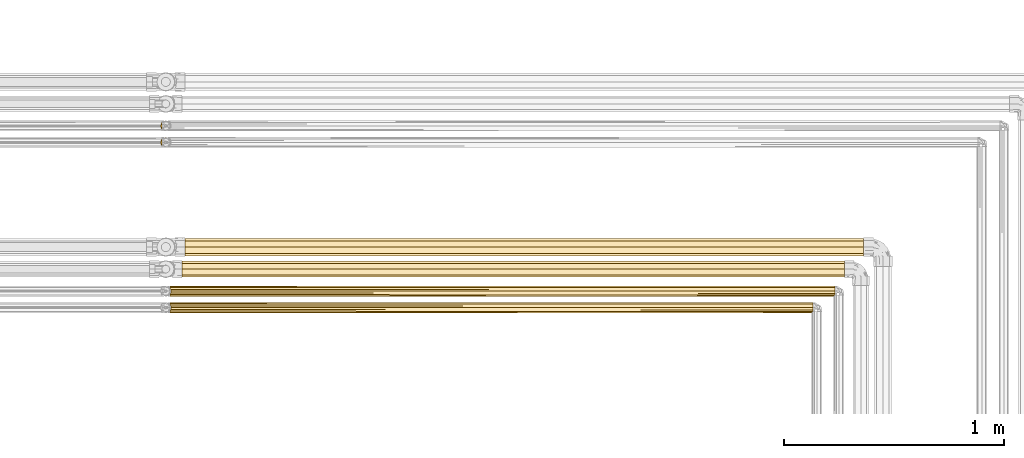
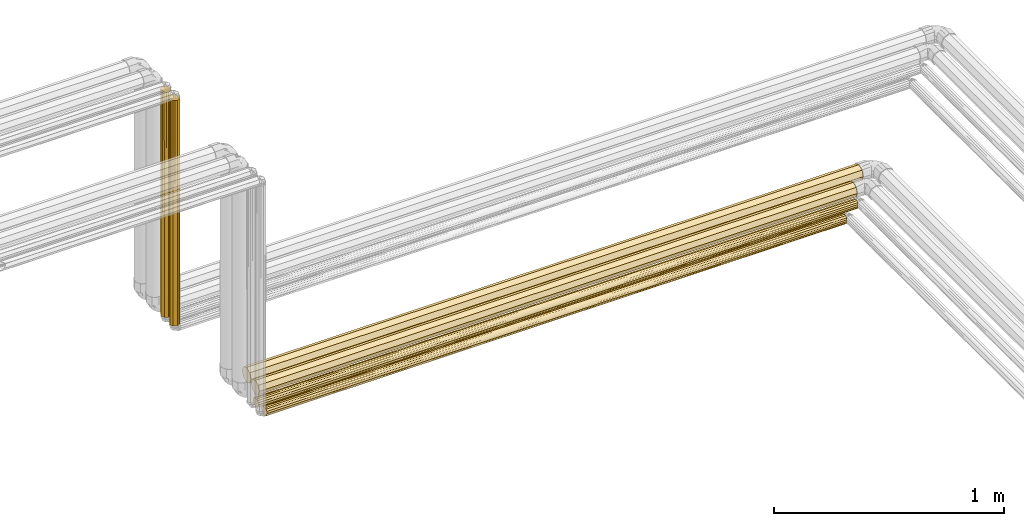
# One storey, part 107 of 652: 6 coverings.
"""IFC2X3 building model written with IfcOpenShell, lengths in millimetres."""

from ifc_helpers import new_model, entity, si_unit, converted_unit, direction, frame, origin, place, context, subcontext, project, spatial, faceted_brep, material, type_object, element, save


model = new_model("IFC2X3")

# Units and contexts
model_context = context("Model", 3, precision=0.01, world=frame((0.0, 0.0, 308426.39999999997)), true_north=direction((6.123233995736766e-17, 1.0)))
plan_context = context("Plan", 3, precision=0.01, world=frame((0.0, 0.0, 308426.39999999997)), true_north=direction((6.123233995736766e-17, 1.0)))
body_context = subcontext(model_context, "Body", "Model", "MODEL_VIEW")
ifc_project = project(units=[si_unit("LENGTHUNIT", "METRE", prefix="MILLI"), si_unit("AREAUNIT", "SQUARE_METRE"), si_unit("VOLUMEUNIT", "CUBIC_METRE"), converted_unit("PLANEANGLEUNIT", "DEGREE", entity("IfcPlaneAngleMeasure", 0.017453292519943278), si_unit("PLANEANGLEUNIT", "RADIAN"), dimensions=[0, 0, 0, 0, 0, 0, 0])], contexts=[model_context, plan_context])

# Site, building, storey
site_placement = place(None, origin())
site = spatial("IfcSite", under=ifc_project, at=site_placement, Name="Default", CompositionType="ELEMENT")
building_placement = place(site_placement, origin())
building = spatial("IfcBuilding", under=site, at=building_placement, CompositionType="ELEMENT")
storey_placement = place(building_placement, frame((0.0, 0.0, 1730.6999999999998)))
storey = spatial("IfcBuildingStorey", under=building, at=storey_placement, Name="EG_Produktion_FFB", CompositionType="ELEMENT", Elevation=1730.6999999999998)

# Coverings
ifc_material = material(Name="Dämmung - Armaflex-Schlauch")
covering_type = type_object("IfcCoveringType", Name="Rohrdämmung außen:Armaflex-Schlauch", PredefinedType="INSULATION")
covering_1_placement = place(storey_placement, frame((69574.08425000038, 40736.94222776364, 2526.895152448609)))
element("IfcCovering", 1, at=covering_1_placement, inside=storey, type_object=covering_type, material=ifc_material, Name="Rohrdämmung außen:Armaflex-Schlauch", ObjectType="Rohrdämmung außen:Armaflex-Schlauch", PredefinedType="INSULATION", context=body_context, shape_type="Brep", body=[
    faceted_brep([(3006.8315000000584, 74.52027223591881, 38.057772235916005), (3006.8315000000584, 71.8576176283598, 44.48598910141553), (3006.8315000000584, 69.18046274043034, 50.949212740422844), (3006.8315000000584, 66.51055799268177, 57.39493299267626), (3006.8315000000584, 63.8406532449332, 63.84065324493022), (3006.831500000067, 57.394932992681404, 66.51055799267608), (3006.8315000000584, 50.94921274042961, 69.18046274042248), (3006.831500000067, 44.50349248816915, 71.85036748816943), (3006.8315000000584, 38.057772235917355, 74.52027223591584), (3006.8315000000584, 31.629555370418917, 71.85761762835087), (3006.8315000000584, 25.166331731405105, 69.18046274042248), (3006.83150000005, 18.72061147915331, 66.51055799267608), (3006.8315000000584, 12.274891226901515, 63.84065324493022), (3006.8315000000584, 9.604986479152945, 57.39493299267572), (3006.8315000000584, 6.935081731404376, 50.949212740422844), (3006.8315000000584, 4.265176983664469, 44.50349248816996), (3006.8315000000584, 1.5952722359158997, 38.057772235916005), (3006.8315000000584, 4.265176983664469, 31.612051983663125), (3006.8315000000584, 6.935081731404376, 25.166331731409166), (3006.8315000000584, 9.604986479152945, 18.720611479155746), (3006.8315000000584, 12.274891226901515, 12.274891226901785), (3006.8315000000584, 18.72061147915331, 9.604986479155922), (3006.8315000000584, 25.166331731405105, 6.935081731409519), (3006.83150000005, 31.612051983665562, 4.265176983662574), (3006.8315000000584, 38.057772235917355, 1.5952722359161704), (3006.8315000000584, 44.4859891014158, 4.257926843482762), (3006.8315000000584, 50.94921274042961, 6.935081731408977), (3006.8315000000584, 57.394932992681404, 9.604986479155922), (3006.8315000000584, 63.8406532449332, 12.274891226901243), (3006.83150000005, 66.51055799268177, 18.720611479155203), (3006.8315000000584, 69.18046274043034, 25.166331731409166), (3006.83150000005, 71.85036748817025, 31.612051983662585), (0.0, 57.394932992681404, 9.60498647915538), (0.0, 50.94921274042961, 6.935081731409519), (0.0, 44.50349248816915, 4.265176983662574), (0.0, 38.057772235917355, 1.5952722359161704), (0.0, 31.62955536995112, 4.257926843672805), (0.0, 25.201338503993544, 6.920581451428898), (0.0, 18.73811486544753, 9.597736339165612), (0.0, 12.274891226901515, 12.274891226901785), (0.0, 9.604986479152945, 18.720611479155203), (0.0, 6.935081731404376, 25.166331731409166), (0.0, 4.265176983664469, 31.612051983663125), (0.0, 1.5952722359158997, 38.057772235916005), (0.0, 4.257926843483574, 44.485989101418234), (0.0, 6.920581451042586, 50.91420596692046), (0.0, 9.59773633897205, 57.377429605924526), (0.0, 12.274891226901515, 63.84065324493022), (0.0, 18.72061147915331, 66.51055799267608), (0.0, 25.166331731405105, 69.18046274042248), (0.0, 31.612051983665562, 71.85036748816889), (0.0, 38.057772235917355, 74.52027223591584), (0.0, 44.48598910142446, 71.85761762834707), (0.0, 50.91420596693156, 69.19496302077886), (0.0, 57.37742960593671, 66.51780813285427), (0.0, 63.8406532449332, 63.84065324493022), (0.0, 66.51055799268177, 57.39493299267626), (0.0, 69.18046274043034, 50.949212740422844), (0.0, 71.85036748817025, 44.50349248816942), (0.0, 74.52027223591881, 38.057772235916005), (0.0, 71.85761762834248, 31.629555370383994), (0.0, 69.19496302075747, 25.201338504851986), (0.0, 66.51780813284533, 18.738114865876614), (0.0, 63.8406532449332, 12.274891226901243)], [[[0, 1, 2, 3, 4, 5, 6, 7, 8, 9, 10, 11, 12, 13, 14, 15, 16, 17, 18, 19, 20, 21, 22, 23, 24, 25, 26, 27, 28, 29, 30, 31]], [[32, 33, 34, 35, 36, 37, 38, 39, 40, 41, 42, 43, 44, 45, 46, 47, 48, 49, 50, 51, 52, 53, 54, 55, 56, 57, 58, 59, 60, 61, 62, 63]], [[41, 40, 39, 20, 19, 18, 17, 16, 43, 42]], [[21, 20, 39, 38, 37, 36, 35, 24, 23, 22]], [[25, 24, 35, 34, 33, 32, 63, 28, 27, 26]], [[62, 61, 60, 59, 0, 31, 30, 29, 28, 63]], [[1, 0, 59, 58, 57, 56, 55, 4, 3, 2]], [[54, 53, 52, 51, 8, 7, 6, 5, 4, 55]], [[9, 8, 51, 50, 49, 48, 47, 12, 11, 10]], [[46, 45, 44, 43, 16, 15, 14, 13, 12, 47]]]),
])
covering_2_placement = place(storey_placement, frame((69588.11775000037, 40833.767227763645, 2523.720152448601)))
element("IfcCovering", 2, at=covering_2_placement, inside=storey, type_object=covering_type, material=ifc_material, Name="Rohrdämmung außen:Armaflex-Schlauch", ObjectType="Rohrdämmung außen:Armaflex-Schlauch", PredefinedType="INSULATION", context=body_context, shape_type="Brep", body=[
    faceted_brep([(3078.76450000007, 80.87027223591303, 41.232772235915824), (3078.76450000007, 77.92288515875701, 48.348394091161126), (3078.76450000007, 75.0654947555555, 55.24674475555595), (3078.76450000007, 72.1631060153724, 62.25373101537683), (3078.76450000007, 69.26071727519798, 69.2607172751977), (3078.76450000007, 62.25373101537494, 72.16310601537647), (3078.76450000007, 55.246744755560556, 75.06549475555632), (3078.76450000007, 48.34839409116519, 77.92288515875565), (3078.76450000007, 41.23277223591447, 80.87027223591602), (3078.76450000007, 34.11715038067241, 77.92288515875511), (3078.76450000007, 27.218799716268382, 75.06549475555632), (3078.76450000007, 20.211813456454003, 72.16310601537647), (3078.76450000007, 13.204827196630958, 69.2607172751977), (3078.76450000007, 10.302438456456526, 62.25373101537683), (3078.76450000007, 7.400049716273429, 55.24674475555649), (3078.76450000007, 4.5426593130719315, 48.348394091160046), (3078.76450000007, 1.5952722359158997, 41.232772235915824), (3078.76450000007, 4.497660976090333, 34.22578597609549), (3078.76450000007, 7.400049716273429, 27.21879971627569), (3078.76450000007, 10.302438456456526, 20.211813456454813), (3078.76450000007, 13.204827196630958, 13.204827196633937), (3078.76450000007, 20.211813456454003, 10.302438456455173), (3078.76450000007, 27.218799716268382, 7.4000497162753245), (3078.76450000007, 34.11715038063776, 4.542659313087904), (3078.76450000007, 41.23277223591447, 1.595272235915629), (3078.76450000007, 48.34839409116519, 4.542659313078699), (3078.76450000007, 55.246744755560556, 7.4000497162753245), (3078.76450000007, 62.25373101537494, 10.302438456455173), (3078.76450000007, 69.26071727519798, 13.204827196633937), (3078.76450000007, 72.1631060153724, 20.211813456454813), (3078.76450000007, 75.0654947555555, 27.21879971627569), (3078.76450000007, 77.92288515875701, 34.117150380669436), (0.0, 62.2537310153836, 10.302438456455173), (0.0, 55.246744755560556, 7.4000497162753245), (0.0, 48.23975849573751, 4.497660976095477), (0.0, 41.23277223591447, 1.595272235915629), (0.0, 34.1171503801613, 4.542659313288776), (0.0, 27.001528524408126, 7.490046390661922), (0.0, 20.103177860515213, 10.347436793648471), (0.0, 13.204827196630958, 13.204827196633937), (0.0, 10.302438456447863, 20.211813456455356), (0.0, 7.400049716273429, 27.21879971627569), (0.0, 4.497660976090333, 34.22578597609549), (0.0, 1.5952722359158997, 41.232772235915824), (0.0, 4.5426593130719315, 48.34839409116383), (0.0, 7.490046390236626, 55.46401594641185), (0.0, 10.347436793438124, 62.36236661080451), (0.0, 13.204827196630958, 69.2607172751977), (0.0, 20.211813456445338, 72.16310601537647), (0.0, 27.218799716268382, 75.06549475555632), (0.0, 34.22578597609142, 77.96788349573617), (0.0, 41.23277223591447, 80.87027223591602), (0.0, 48.34839409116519, 77.92288515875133), (0.0, 55.464015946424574, 74.97549808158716), (0.0, 62.36236661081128, 72.11810767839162), (0.0, 69.26071727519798, 69.2607172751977), (0.0, 72.1631060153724, 62.25373101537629), (0.0, 75.0654947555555, 55.24674475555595), (0.0, 77.9678834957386, 48.23975849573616), (0.0, 80.87027223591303, 41.232772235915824), (0.0, 77.92288515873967, 34.11715038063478), (0.0, 74.97549808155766, 27.0015285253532), (0.0, 72.11810767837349, 20.10317786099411), (0.0, 69.26071727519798, 13.204827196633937)], [[[0, 1, 2, 3, 4, 5, 6, 7, 8, 9, 10, 11, 12, 13, 14, 15, 16, 17, 18, 19, 20, 21, 22, 23, 24, 25, 26, 27, 28, 29, 30, 31]], [[32, 33, 34, 35, 36, 37, 38, 39, 40, 41, 42, 43, 44, 45, 46, 47, 48, 49, 50, 51, 52, 53, 54, 55, 56, 57, 58, 59, 60, 61, 62, 63]], [[41, 40, 39, 20, 19, 18, 17, 16, 43, 42]], [[20, 39, 38, 37, 36, 35, 24, 23, 22, 21]], [[24, 35, 34, 33, 32, 63, 28, 27, 26, 25]], [[28, 63, 62, 61, 60, 59, 0, 31, 30, 29]], [[0, 59, 58, 57, 56, 55, 4, 3, 2, 1]], [[4, 55, 54, 53, 52, 51, 8, 7, 6, 5]], [[8, 51, 50, 49, 48, 47, 12, 11, 10, 9]], [[12, 47, 46, 45, 44, 43, 16, 15, 14, 13]]]),
])
covering_3_placement = place(storey_placement, frame((69516.35497776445, 40649.64222776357, 2539.5951524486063)))
element("IfcCovering", 3, at=covering_3_placement, inside=storey, type_object=covering_type, material=ifc_material, Name="Rohrdämmung außen:Armaflex-Schlauch", ObjectType="Rohrdämmung außen:Armaflex-Schlauch", PredefinedType="INSULATION", context=body_context, shape_type="Brep", body=[
    faceted_brep([(3020.6947722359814, 49.120272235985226, 25.357772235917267), (3020.6947722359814, 47.38030345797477, 29.55842845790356), (3020.6947722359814, 45.64033467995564, 33.75908467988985), (3020.6947722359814, 43.90036590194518, 37.959740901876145), (3020.6947722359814, 42.16039712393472, 42.16039712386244), (3020.6947722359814, 37.95974090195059, 43.90036590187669), (3020.6947722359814, 33.75908467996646, 45.64033467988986), (3020.6947722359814, 29.558428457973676, 47.38030345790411), (3020.6947722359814, 25.357772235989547, 49.12027223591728), (3020.6947722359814, 20.423230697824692, 48.04709335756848), (3020.6947722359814, 15.488689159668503, 46.97391447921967), (3020.6947722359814, 11.44810569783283, 43.951164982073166), (3020.6947722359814, 7.407522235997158, 40.92841548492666), (3020.6947722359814, 7.407522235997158, 9.787128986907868), (3020.6947722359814, 11.44810569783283, 6.7643794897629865), (3020.6947722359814, 15.488689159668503, 3.741629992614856), (3020.6947722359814, 20.423230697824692, 2.668451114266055), (3020.6947722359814, 25.357772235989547, 1.5952722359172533), (3020.6947722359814, 28.725916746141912, 2.990403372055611), (3020.6947722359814, 33.75908467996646, 5.0752097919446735), (3020.6947722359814, 37.95974090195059, 6.815178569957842), (3020.6947722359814, 42.16039712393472, 8.555147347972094), (3020.6947722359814, 43.90036590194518, 12.755803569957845), (3020.6947722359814, 45.64033467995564, 16.95645979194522), (3020.6947722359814, 47.38030345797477, 21.157116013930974), (1.5952722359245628, 40.92841548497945, 43.30802223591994), (1.5952722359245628, 43.95116498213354, 39.26743877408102), (1.5952722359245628, 46.97391447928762, 35.226855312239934), (1.5952722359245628, 48.04709335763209, 30.292313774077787), (1.5952722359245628, 49.12027223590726, 25.35777223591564), (1.5952722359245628, 46.33000996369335, 18.62148321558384), (1.5952722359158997, 44.24520354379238, 13.588315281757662), (1.5952722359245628, 42.160397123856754, 8.55514734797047), (1.5952722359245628, 37.95974090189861, 6.815178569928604), (1.5952722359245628, 33.759084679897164, 5.075209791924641), (1.5952722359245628, 29.558428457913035, 3.335241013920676), (1.5952722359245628, 25.35777223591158, 1.595272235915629), (1.5952722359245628, 21.989627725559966, 2.990403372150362), (1.5952722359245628, 16.95645979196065, 5.075209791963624), (1.5952722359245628, 12.755803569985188, 6.815178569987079), (1.5952722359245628, 8.55514734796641, 8.55514734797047), (1.5952722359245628, 6.815178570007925, 12.755803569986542), (1.5952722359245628, 5.0752097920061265, 16.956459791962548), (1.5952722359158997, 3.3352410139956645, 21.157116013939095), (1.5952722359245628, 1.5952722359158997, 25.35777223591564), (1.5952722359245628, 2.6684511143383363, 30.292313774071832), (1.5952722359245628, 3.741629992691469, 35.226855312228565), (1.5952722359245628, 6.764379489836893, 39.26743877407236), (1.5952722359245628, 9.787128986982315, 43.308022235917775), (3015.632738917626, 2.3454889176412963, 21.202751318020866), (3014.8825222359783, 1.5952722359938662, 25.357772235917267), (3016.3829555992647, 3.0957055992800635, 17.047730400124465), (3018.538863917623, 5.25161391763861, 13.417429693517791), (3.75118055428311, 37.298114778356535, 45.463930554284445), (5.90708887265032, 33.66781407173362, 47.61983887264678), (6.6573055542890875, 29.5127931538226, 48.3700555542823), (7.407522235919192, 25.35777223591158, 49.12027223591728), (3.751180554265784, 13.417429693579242, 45.463930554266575), (5.9070888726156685, 17.047730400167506, 47.61983887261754), (6.746325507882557, 21.69578190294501, 48.45907550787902), (3015.632738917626, 2.3454889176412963, 29.512793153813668), (3016.3829555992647, 3.0957055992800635, 33.66781407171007), (3018.538863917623, 5.25161391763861, 37.298114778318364)], [[[0, 1, 2, 3, 4, 5, 6, 7, 8, 9, 10, 11, 12, 13, 14, 15, 16, 17, 18, 19, 20, 21, 22, 23, 24]], [[25, 26, 27, 28, 29, 30, 31, 32, 33, 34, 35, 36, 37, 38, 39, 40, 41, 42, 43, 44, 45, 46, 47, 48]], [[40, 14, 13]], [[44, 49, 50]], [[49, 44, 43]], [[51, 42, 52]], [[16, 38, 37]], [[14, 40, 39]], [[38, 16, 15]], [[13, 52, 41]], [[43, 51, 49]], [[37, 17, 16]], [[42, 51, 43]], [[39, 15, 14]], [[13, 41, 40]], [[39, 38, 15]], [[37, 36, 17]], [[52, 42, 41]], [[34, 33, 32, 21, 20, 19, 18, 17, 36, 35]], [[21, 32, 31, 30, 29, 0, 24, 23, 22]], [[29, 1, 0]], [[5, 25, 53]], [[4, 26, 25]], [[28, 2, 1]], [[3, 27, 26]], [[4, 25, 5]], [[53, 54, 6]], [[55, 56, 8]], [[28, 27, 2]], [[53, 6, 5]], [[26, 4, 3]], [[7, 54, 55]], [[3, 2, 27]], [[1, 29, 28]], [[6, 54, 7]], [[55, 8, 7]], [[57, 48, 11]], [[58, 9, 59]], [[8, 56, 59]], [[9, 58, 10]], [[8, 59, 9]], [[57, 11, 10]], [[44, 50, 60]], [[45, 61, 46]], [[10, 58, 57]], [[62, 12, 47]], [[60, 61, 45]], [[46, 61, 62]], [[48, 12, 11]], [[46, 62, 47]], [[12, 48, 47]], [[44, 60, 45]], [[49, 51, 52, 13, 12, 62, 61, 60, 50]], [[25, 48, 57, 58, 59, 56, 55, 54, 53]]]),
])
covering_4_placement = place(storey_placement, frame((69516.35497776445, 40574.64222776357, 2539.5951524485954)))
element("IfcCovering", 4, at=covering_4_placement, inside=storey, type_object=covering_type, material=ifc_material, Name="Rohrdämmung außen:Armaflex-Schlauch", ObjectType="Rohrdämmung außen:Armaflex-Schlauch", PredefinedType="INSULATION", context=body_context, shape_type="Brep", body=[
    faceted_brep([(2920.6947722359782, 15.488689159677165, 3.741629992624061), (2920.6947722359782, 20.423230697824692, 2.668451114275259), (2920.6947722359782, 25.357772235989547, 1.5952722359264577), (2920.6947722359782, 28.84129974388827, 3.038196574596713), (2920.6947722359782, 33.75908467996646, 5.075209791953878), (2920.6947722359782, 37.95974090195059, 6.815178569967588), (2920.6947722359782, 42.16039712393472, 8.555147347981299), (2920.694772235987, 43.90036590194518, 12.755803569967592), (2920.6947722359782, 45.64033467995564, 16.956459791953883), (2920.6947722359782, 47.3803034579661, 21.157116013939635), (2920.6947722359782, 49.120272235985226, 25.35777223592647), (2920.6947722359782, 47.3803034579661, 29.558428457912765), (2920.694772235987, 45.64033467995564, 33.759084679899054), (2920.6947722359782, 43.90036590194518, 37.95974090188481), (2920.6947722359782, 42.16039712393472, 42.16039712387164), (2920.6947722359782, 37.95974090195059, 43.90036590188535), (2920.694772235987, 33.75908467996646, 45.64033467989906), (2920.694772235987, 29.558428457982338, 47.380303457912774), (2920.6947722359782, 25.357772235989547, 49.120272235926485), (2920.6947722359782, 20.423230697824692, 48.04709335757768), (2920.6947722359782, 15.488689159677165, 46.97391447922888), (2920.6947722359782, 11.44810569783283, 43.951164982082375), (2920.6947722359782, 7.407522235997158, 40.92841548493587), (2920.6947722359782, 7.407522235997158, 9.787128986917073), (2920.6947722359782, 11.44810569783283, 6.764379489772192), (1.5952722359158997, 40.928415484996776, 43.30802223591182), (1.5952722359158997, 43.951164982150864, 39.26743877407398), (1.5952722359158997, 46.97391447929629, 35.22685531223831), (1.5952722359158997, 48.047093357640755, 30.292313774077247), (1.5952722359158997, 49.12027223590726, 25.35777223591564), (1.5952722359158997, 46.2344235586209, 18.39071722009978), (1.5952722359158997, 44.19741034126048, 13.472932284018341), (1.5952722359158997, 42.160397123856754, 8.55514734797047), (1.5952722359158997, 37.95974090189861, 6.81517856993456), (1.5952722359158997, 33.759084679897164, 5.075209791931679), (1.5952722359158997, 29.55842845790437, 3.335241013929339), (1.5952722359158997, 25.35777223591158, 1.595272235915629), (1.5952722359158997, 21.87424472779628, 3.0381965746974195), (1.5952722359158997, 16.95645979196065, 5.0752097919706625), (1.5952722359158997, 12.755803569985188, 6.815178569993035), (1.5952722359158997, 8.55514734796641, 8.55514734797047), (1.5952722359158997, 6.815178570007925, 12.75580356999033), (1.5952722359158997, 5.0752097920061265, 16.956459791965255), (1.5952722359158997, 3.335241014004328, 21.15711601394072), (1.5952722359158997, 1.5952722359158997, 25.35777223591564), (1.5952722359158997, 2.6684511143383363, 30.292313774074), (1.5952722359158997, 3.7416299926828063, 35.22685531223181), (1.5952722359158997, 6.7643794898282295, 39.26743877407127), (1.5952722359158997, 9.787128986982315, 43.30802223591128), (2915.632738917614, 2.3454889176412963, 21.202751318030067), (2914.882522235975, 1.5952722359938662, 25.35777223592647), (2916.382955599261, 3.0957055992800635, 17.047730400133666), (2918.53886391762, 5.25161391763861, 13.417429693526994), (3.75118055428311, 37.298114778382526, 45.46393055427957), (5.90708887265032, 33.667814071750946, 47.61983887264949), (6.6573055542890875, 29.512793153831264, 48.37005555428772), (7.407522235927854, 25.35777223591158, 49.120272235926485), (3.751180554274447, 13.417429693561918, 45.46393055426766), (5.907088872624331, 17.047730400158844, 47.619838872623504), (6.723674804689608, 21.570332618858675, 48.43642480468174), (2915.632738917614, 2.3454889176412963, 29.512793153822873), (2916.382955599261, 3.0957055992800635, 33.66781407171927), (2918.53886391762, 5.25161391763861, 37.29811477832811)], [[[0, 1, 2, 3, 4, 5, 6, 7, 8, 9, 10, 11, 12, 13, 14, 15, 16, 17, 18, 19, 20, 21, 22, 23, 24]], [[25, 26, 27, 28, 29, 30, 31, 32, 33, 34, 35, 36, 37, 38, 39, 40, 41, 42, 43, 44, 45, 46, 47, 48]], [[40, 24, 23]], [[44, 49, 50]], [[49, 44, 43]], [[51, 42, 52]], [[1, 38, 37]], [[24, 40, 39]], [[38, 1, 0]], [[23, 52, 41]], [[43, 51, 49]], [[37, 2, 1]], [[42, 51, 43]], [[39, 0, 24]], [[23, 41, 40]], [[39, 38, 0]], [[37, 36, 2]], [[52, 42, 41]], [[34, 33, 32, 6, 5, 4, 3, 2, 36, 35]], [[6, 32, 31, 30, 29, 10, 9, 8, 7]], [[29, 11, 10]], [[15, 25, 53]], [[14, 26, 25]], [[28, 12, 11]], [[13, 27, 26]], [[14, 25, 15]], [[53, 54, 16]], [[55, 56, 18]], [[28, 27, 12]], [[53, 16, 15]], [[26, 14, 13]], [[17, 54, 55]], [[13, 12, 27]], [[11, 29, 28]], [[16, 54, 17]], [[55, 18, 17]], [[57, 48, 21]], [[58, 19, 59]], [[18, 56, 59]], [[19, 58, 20]], [[18, 59, 19]], [[57, 21, 20]], [[44, 50, 60]], [[45, 61, 46]], [[20, 58, 57]], [[62, 22, 47]], [[60, 61, 45]], [[46, 61, 62]], [[48, 22, 21]], [[46, 62, 47]], [[22, 48, 47]], [[44, 60, 45]], [[49, 51, 52, 23, 22, 62, 61, 60, 50]], [[25, 48, 57, 58, 59, 56, 55, 54, 53]]]),
])
covering_5_placement = place(storey_placement, frame((69474.64222776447, 41399.64067746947, 2581.3079024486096)))
element("IfcCovering", 5, at=covering_5_placement, inside=storey, type_object=covering_type, material=ifc_material, Name="Rohrdämmung außen:Armaflex-Schlauch", ObjectType="Rohrdämmung außen:Armaflex-Schlauch", PredefinedType="INSULATION", context=body_context, shape_type="Brep", body=[
    faceted_brep([(1.5952722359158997, 25.35777223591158, 1.595272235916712), (3.335241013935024, 29.558428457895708, 1.595272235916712), (5.075209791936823, 33.759084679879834, 1.595272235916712), (6.815178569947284, 37.95974090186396, 1.595272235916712), (8.55514734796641, 42.160397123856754, 1.595272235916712), (12.755803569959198, 43.90036590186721, 1.595272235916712), (16.956459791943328, 45.64033467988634, 1.595272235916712), (21.117772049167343, 47.36400665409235, 1.595272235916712), (25.35777223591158, 49.12027223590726, 1.595272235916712), (30.2923137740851, 48.047093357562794, 1.595272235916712), (35.22685531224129, 46.97391447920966, 1.595272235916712), (39.26743877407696, 43.95116498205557, 1.595272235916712), (43.30802223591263, 40.928415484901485, 1.595272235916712), (43.30802223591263, 9.787128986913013, 1.595272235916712), (39.26743877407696, 6.764379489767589, 1.595272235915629), (35.22685531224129, 3.7416299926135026, 1.595272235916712), (30.292313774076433, 2.6684511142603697, 1.595272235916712), (25.35777223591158, 1.5952722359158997, 1.595272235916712), (21.157116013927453, 3.3352410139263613, 1.595272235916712), (16.956459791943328, 5.075209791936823, 1.595272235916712), (12.755803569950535, 6.815178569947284, 1.595272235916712), (8.55514734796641, 8.55514734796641, 1.595272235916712), (6.815178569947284, 12.755803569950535, 1.595272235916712), (5.075209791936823, 16.956459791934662, 1.595272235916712), (3.3352410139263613, 21.157116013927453, 1.595272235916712), (25.35777223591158, 49.12027223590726, 1200.7418475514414), (20.423230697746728, 48.047093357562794, 1200.7418475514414), (15.488689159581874, 46.97391447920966, 1200.7418475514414), (11.4481056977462, 43.95116498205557, 1200.7418475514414), (7.407522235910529, 40.92841548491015, 1200.7418475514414), (7.407522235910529, 9.787128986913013, 1200.7418475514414), (11.4481056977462, 6.764379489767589, 1200.7418475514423), (15.488689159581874, 3.7416299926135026, 1200.7418475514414), (20.423230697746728, 2.6684511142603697, 1200.7418475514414), (25.35777223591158, 1.5952722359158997, 1200.7418475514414), (29.59777242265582, 3.3515378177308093, 1200.7418475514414), (33.759084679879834, 5.075209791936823, 1200.7418475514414), (37.95974090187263, 6.815178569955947, 1200.7418475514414), (42.160397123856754, 8.55514734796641, 1200.7418475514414), (43.90036590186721, 12.755803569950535, 1200.7418475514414), (45.64033467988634, 16.956459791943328, 1200.7418475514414), (47.3803034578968, 21.157116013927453, 1200.7418475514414), (49.12027223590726, 25.35777223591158, 1200.7418475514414), (47.3803034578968, 29.558428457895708, 1200.7418475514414), (45.64033467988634, 33.759084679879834, 1200.7418475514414), (43.90036590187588, 37.95974090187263, 1200.7418475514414), (42.160397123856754, 42.160397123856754, 1200.7418475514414), (37.95974090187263, 43.90036590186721, 1200.7418475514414), (33.759084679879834, 45.64033467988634, 1200.7418475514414), (29.558428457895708, 47.3803034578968, 1200.7418475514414), (3.095705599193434, 17.04773040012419, 1196.4300309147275), (5.251613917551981, 13.417429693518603, 1198.585939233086), (2.345488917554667, 21.202751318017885, 1195.6798142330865), (1.5952722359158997, 25.35777223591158, 1194.9295975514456), (2.345488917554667, 29.512793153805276, 1195.6798142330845), (3.095705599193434, 33.66781407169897, 1196.4300309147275), (5.251613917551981, 37.29811477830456, 1198.585939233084), (48.3700555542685, 29.512793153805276, 6.657305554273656), (45.46393055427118, 37.29811477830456, 3.7511805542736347), (47.61983887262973, 33.66781407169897, 5.907088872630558), (49.12027223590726, 25.35777223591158, 7.407522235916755), (48.3700555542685, 21.202751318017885, 6.657305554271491), (47.61983887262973, 17.04773040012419, 5.907088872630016), (45.46393055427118, 13.417429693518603, 3.7511805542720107)], [[[0, 1, 2, 3, 4, 5, 6, 7, 8, 9, 10, 11, 12, 13, 14, 15, 16, 17, 18, 19, 20, 21, 22, 23, 24]], [[25, 26, 27, 28, 29, 30, 31, 32, 33, 34, 35, 36, 37, 38, 39, 40, 41, 42, 43, 44, 45, 46, 47, 48, 49]], [[34, 18, 17]], [[23, 50, 24]], [[18, 34, 33]], [[33, 19, 18]], [[30, 21, 31]], [[22, 30, 51]], [[51, 50, 23]], [[52, 53, 0]], [[32, 31, 20]], [[31, 21, 20]], [[32, 20, 19]], [[24, 50, 52]], [[21, 30, 22]], [[33, 32, 19]], [[51, 23, 22]], [[52, 0, 24]], [[53, 54, 0]], [[26, 25, 7]], [[1, 54, 55]], [[27, 5, 28]], [[56, 2, 55]], [[4, 29, 28]], [[27, 26, 6]], [[6, 26, 7]], [[0, 54, 1]], [[28, 5, 4]], [[25, 8, 7]], [[27, 6, 5]], [[2, 56, 3]], [[29, 3, 56]], [[1, 55, 2]], [[3, 29, 4]], [[11, 47, 46]], [[25, 49, 8]], [[48, 10, 9]], [[48, 47, 10]], [[42, 57, 43]], [[12, 45, 58]], [[59, 44, 43]], [[9, 49, 48]], [[44, 59, 58]], [[10, 47, 11]], [[57, 59, 43]], [[8, 49, 9]], [[46, 12, 11]], [[60, 57, 42]], [[45, 12, 46]], [[45, 44, 58]], [[42, 61, 60]], [[16, 36, 35]], [[61, 42, 41]], [[62, 40, 63]], [[14, 38, 37]], [[38, 14, 13]], [[36, 16, 15]], [[13, 39, 38]], [[40, 62, 41]], [[35, 17, 16]], [[13, 63, 39]], [[37, 15, 14]], [[37, 36, 15]], [[41, 62, 61]], [[35, 34, 17]], [[63, 40, 39]], [[12, 58, 59, 57, 60, 61, 62, 63, 13]], [[52, 50, 51, 30, 29, 56, 55, 54, 53]]]),
])
covering_6_placement = place(storey_placement, frame((69474.64222776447, 41324.64067746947, 2581.3079024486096)))
element("IfcCovering", 6, at=covering_6_placement, inside=storey, type_object=covering_type, material=ifc_material, Name="Rohrdämmung außen:Armaflex-Schlauch", ObjectType="Rohrdämmung außen:Armaflex-Schlauch", PredefinedType="INSULATION", context=body_context, shape_type="Brep", body=[
    faceted_brep([(1.5952722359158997, 25.35777223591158, 1.595272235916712), (3.335241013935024, 29.558428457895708, 1.595272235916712), (5.075209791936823, 33.759084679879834, 1.595272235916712), (6.815178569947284, 37.95974090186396, 1.595272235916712), (8.55514734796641, 42.160397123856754, 1.595272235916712), (12.755803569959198, 43.90036590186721, 1.595272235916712), (16.956459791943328, 45.64033467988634, 1.595272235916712), (21.117772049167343, 47.36400665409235, 1.595272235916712), (25.35777223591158, 49.12027223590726, 1.595272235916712), (30.292313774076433, 48.047093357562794, 1.595272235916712), (35.22685531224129, 46.97391447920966, 1.595272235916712), (39.26743877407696, 43.95116498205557, 1.595272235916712), (43.30802223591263, 40.92841548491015, 1.595272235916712), (43.30802223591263, 9.787128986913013, 1.595272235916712), (39.26743877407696, 6.764379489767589, 1.595272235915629), (35.22685531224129, 3.7416299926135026, 1.595272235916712), (30.292313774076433, 2.6684511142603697, 1.595272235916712), (25.35777223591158, 1.5952722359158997, 1.595272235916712), (21.157116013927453, 3.3352410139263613, 1.595272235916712), (16.956459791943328, 5.075209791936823, 1.595272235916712), (12.755803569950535, 6.815178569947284, 1.595272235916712), (8.55514734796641, 8.55514734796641, 1.595272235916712), (6.815178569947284, 12.755803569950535, 1.595272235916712), (5.075209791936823, 16.956459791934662, 1.595272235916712), (3.3352410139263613, 21.157116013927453, 1.595272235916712), (25.35777223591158, 49.12027223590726, 1200.7418475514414), (20.423230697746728, 48.047093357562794, 1200.7418475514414), (15.488689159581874, 46.97391447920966, 1200.7418475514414), (11.4481056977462, 43.95116498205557, 1200.7418475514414), (7.407522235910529, 40.92841548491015, 1200.7418475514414), (7.407522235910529, 9.787128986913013, 1200.7418475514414), (11.4481056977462, 6.764379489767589, 1200.7418475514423), (15.488689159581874, 3.7416299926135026, 1200.7418475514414), (20.423230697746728, 2.6684511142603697, 1200.7418475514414), (25.35777223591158, 1.5952722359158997, 1200.7418475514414), (29.59777242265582, 3.3515378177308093, 1200.7418475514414), (33.759084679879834, 5.075209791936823, 1200.7418475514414), (37.95974090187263, 6.815178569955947, 1200.7418475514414), (42.160397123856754, 8.55514734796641, 1200.7418475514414), (43.90036590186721, 12.755803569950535, 1200.7418475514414), (45.64033467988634, 16.956459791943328, 1200.7418475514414), (47.3803034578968, 21.157116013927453, 1200.7418475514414), (49.12027223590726, 25.35777223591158, 1200.7418475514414), (47.3803034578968, 29.558428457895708, 1200.7418475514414), (45.64033467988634, 33.759084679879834, 1200.7418475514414), (43.90036590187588, 37.95974090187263, 1200.7418475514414), (42.160397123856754, 42.160397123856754, 1200.7418475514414), (37.95974090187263, 43.90036590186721, 1200.7418475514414), (33.759084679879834, 45.64033467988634, 1200.7418475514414), (29.558428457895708, 47.3803034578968, 1200.7418475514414), (3.095705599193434, 17.04773040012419, 1196.4300309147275), (5.251613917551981, 13.417429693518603, 1198.585939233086), (2.345488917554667, 21.202751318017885, 1195.6798142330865), (1.5952722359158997, 25.35777223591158, 1194.9295975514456), (2.345488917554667, 29.512793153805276, 1195.6798142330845), (3.095705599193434, 33.66781407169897, 1196.4300309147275), (5.251613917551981, 37.29811477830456, 1198.585939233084), (48.3700555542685, 29.512793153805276, 6.657305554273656), (45.46393055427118, 37.29811477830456, 3.7511805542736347), (47.61983887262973, 33.66781407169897, 5.907088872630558), (49.12027223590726, 25.35777223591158, 7.407522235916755), (48.3700555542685, 21.202751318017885, 6.657305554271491), (47.61983887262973, 17.04773040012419, 5.907088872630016), (45.46393055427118, 13.417429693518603, 3.7511805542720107)], [[[0, 1, 2, 3, 4, 5, 6, 7, 8, 9, 10, 11, 12, 13, 14, 15, 16, 17, 18, 19, 20, 21, 22, 23, 24]], [[25, 26, 27, 28, 29, 30, 31, 32, 33, 34, 35, 36, 37, 38, 39, 40, 41, 42, 43, 44, 45, 46, 47, 48, 49]], [[34, 18, 17]], [[23, 50, 24]], [[18, 34, 33]], [[33, 19, 18]], [[30, 21, 31]], [[22, 30, 51]], [[51, 50, 23]], [[52, 53, 0]], [[32, 31, 20]], [[31, 21, 20]], [[32, 20, 19]], [[24, 50, 52]], [[21, 30, 22]], [[33, 32, 19]], [[51, 23, 22]], [[52, 0, 24]], [[53, 54, 0]], [[26, 25, 7]], [[1, 54, 55]], [[27, 5, 28]], [[56, 2, 55]], [[4, 29, 28]], [[27, 26, 6]], [[6, 26, 7]], [[0, 54, 1]], [[28, 5, 4]], [[25, 8, 7]], [[27, 6, 5]], [[2, 56, 3]], [[29, 3, 56]], [[1, 55, 2]], [[3, 29, 4]], [[11, 47, 46]], [[25, 49, 8]], [[48, 10, 9]], [[48, 47, 10]], [[42, 57, 43]], [[12, 45, 58]], [[59, 44, 43]], [[9, 49, 48]], [[44, 59, 58]], [[10, 47, 11]], [[57, 59, 43]], [[8, 49, 9]], [[46, 12, 11]], [[60, 57, 42]], [[45, 12, 46]], [[45, 44, 58]], [[42, 61, 60]], [[16, 36, 35]], [[61, 42, 41]], [[62, 40, 63]], [[14, 38, 37]], [[38, 14, 13]], [[36, 16, 15]], [[13, 39, 38]], [[40, 62, 41]], [[35, 17, 16]], [[13, 63, 39]], [[37, 15, 14]], [[37, 36, 15]], [[41, 62, 61]], [[35, 34, 17]], [[63, 40, 39]], [[12, 58, 59, 57, 60, 61, 62, 63, 13]], [[52, 50, 51, 30, 29, 56, 55, 54, 53]]]),
])

save(model, "model.ifc")
